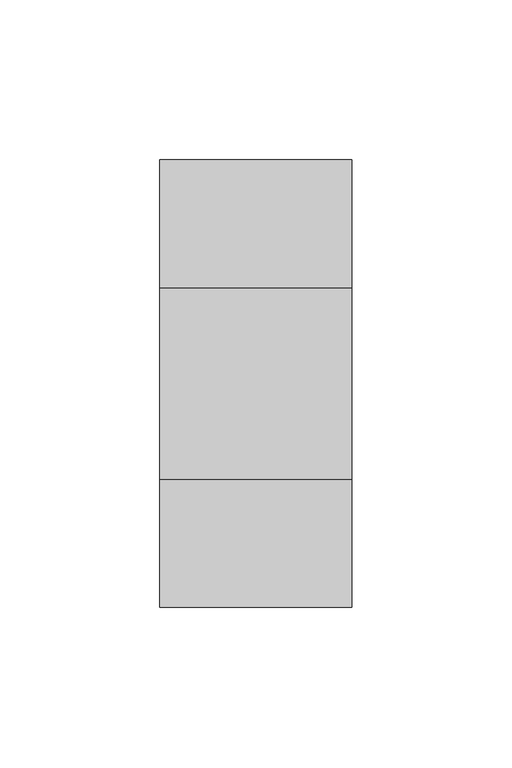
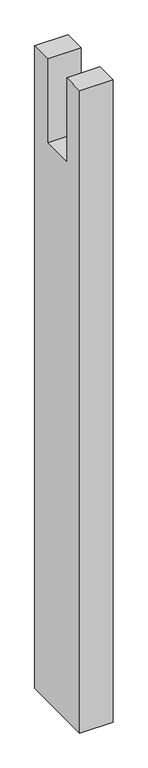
"""IFC4 building model written with IfcOpenShell, lengths in millimetres: proxy geometry, Modelos genéricos 128 : Modelos genéricos 11."""

from ifc_helpers import new_model, si_unit, frame, origin, place, context, project, spatial, polyline, outline, extrude, source, transform, mapped, element, save


def generic_models_8c190c56(model_context):
    return source(origin(), model_context, "Body", "SweptSolid", [
        extrude(outline(polyline([(2018.6238165, 3160.0), (1878.6238165, 3160.0), (1878.6238165, 4380.0), (1918.6238165, 4380.0), (1918.6238165, 4220.0), (1978.6238165, 4220.0), (1978.6238165, 4380.0), (2018.6238165, 4380.0), (2018.6238165, 3160.0)])), frame((9223.4472467, 0.0, 0.0), z_axis=(1.0, 0.0, 0.0), x_axis=(0.0, 1.0, 0.0)), (0.0, 0.0, 1.0), 60.0),
    ])


if __name__ == "__main__":
    model = new_model("IFC4")
    model_context = context("Model", 3, world=origin())
    ifc_project = project(units=[si_unit("LENGTHUNIT", "METRE", prefix="MILLI")], contexts=[model_context])
    site = spatial("IfcSite", under=ifc_project)
    building = spatial("IfcBuilding", under=site)
    placement = place(None, origin())
    generic_models_shape = generic_models_8c190c56(model_context)
    element("IfcBuildingElementProxy", 1, Name="Modelos genéricos 128 : Modelos genéricos 11", ObjectType="Modelos genéricos 128 : Modelos genéricos 11", at=placement, inside=building, context=model_context, shape_type="MappedRepresentation", body=[
        mapped(generic_models_shape, transform((0.0, 0.0, 0.0), x_axis=(1.0, 0.0, 0.0), y_axis=(0.0, 1.0, 0.0), z_axis=(0.0, 0.0, 1.0))),
    ])
    save(model, "model.ifc")
